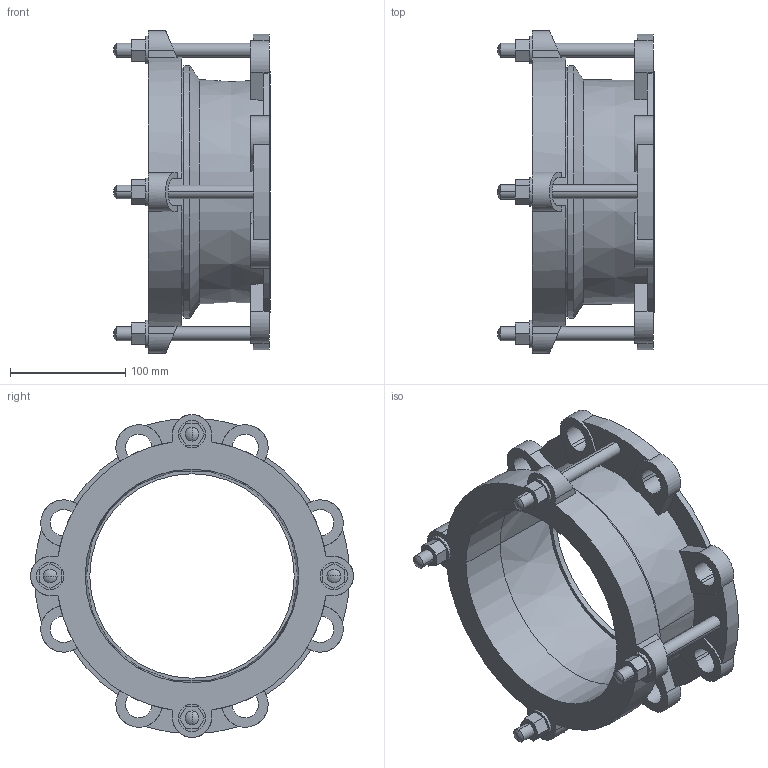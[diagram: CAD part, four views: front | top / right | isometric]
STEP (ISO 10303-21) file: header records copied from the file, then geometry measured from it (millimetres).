
FILE_DESCRIPTION((''),'2;1');
FILE_NAME('BIM_12419_6_NEW','2018-10-05T',('MReader'),(''),'CREO PARAMETRIC BY PTC INC, 2016130','CREO PARAMETRIC BY PTC INC, 2016130','');
FILE_SCHEMA(('CONFIG_CONTROL_DESIGN'));
Length unit declared in the file: millimetre
Products named in the file (1): BIM_12419_6_NEW
Bounding box: 136 x 280.5 x 280.5 mm (x, y, z)
Volume: 1171920.8 mm3; surface area: 259220.2 mm2
Topology: 1 solids, 1 shells, 213 faces, 578 edges, 374 vertices
Faces by surface type: plane 121, cylinder 78, sphere 8, cone 6
Entity records: 6866 total; most frequent: CARTESIAN_POINT 1299, DIRECTION 1174, ORIENTED_EDGE 1140, EDGE_CURVE 570, AXIS2_PLACEMENT_3D 415, VERTEX_POINT 374, VECTOR 344, LINE 344
